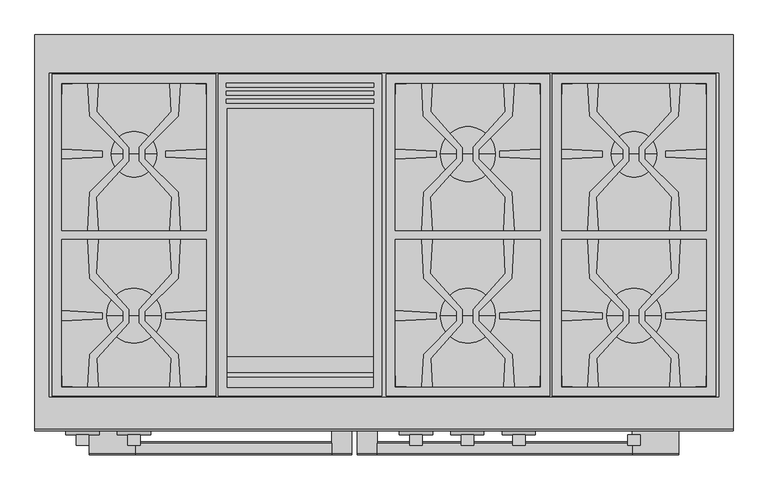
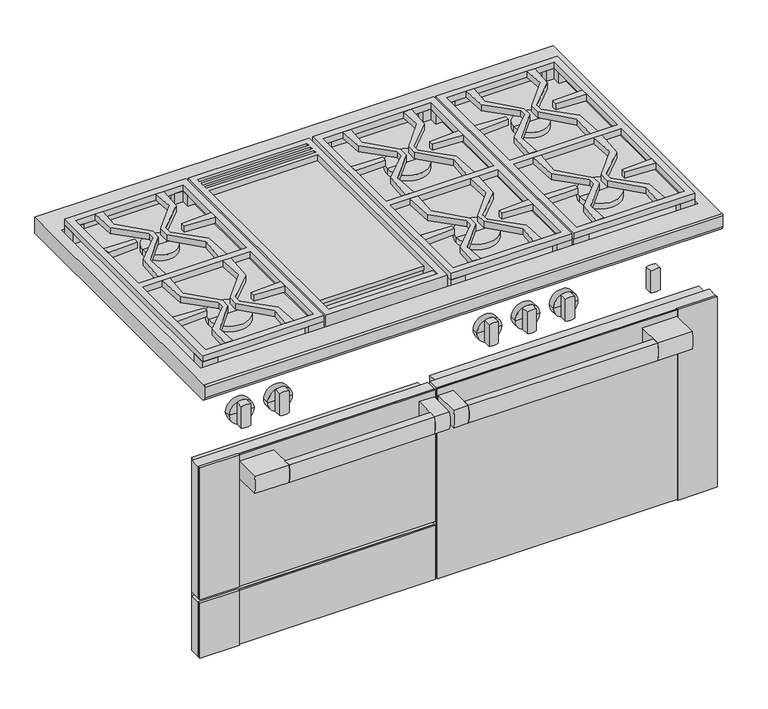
"""IFC4 building model written with IfcOpenShell, lengths in millimetres: proxy geometry, 11791750_USA_HR1956-3LP_EDST-CLS : 25195682_USA_11791750_HR1956-3LP_EDST-CLS."""

from ifc_helpers import new_model, si_unit, point, frame, frame_2d, origin, place, context, project, spatial, polyline, circle_curve, trimmed, segment, composite_curve, outline, extrude, faceted_brep, source, transform, mapped, element, save
from ifc_brep_helpers import plane_surface, cylinder_surface, advanced_brep


def specialty_equipment_7697040e(model_context):
    return source(origin(), model_context, "Body", "SolidModel", [
        extrude(outline(composite_curve([segment(trimmed(circle_curve(frame_2d((-655.4583333, 645.5)), 78.5416667), [point((-731.0, 624.0))], [point((-731.0, 667.0))], False, "CARTESIAN"), True, "CONTINUOUS"), segment(polyline([(-731.0, 667.0), (-714.0, 667.0)]), True, "CONTINUOUS"), segment(trimmed(circle_curve(frame_2d((-789.5416667, 645.5)), 78.5416667), [point((-714.0, 667.0))], [point((-714.0, 624.0))], False, "CARTESIAN"), True, "CONTINUOUS"), segment(polyline([(-714.0, 624.0), (-731.0, 624.0)]), True, "CONTINUOUS")], self_intersect=False)), frame((-11.5, 0.0, 0.0), z_axis=(1.0, 0.0, 0.0), x_axis=(0.0, 1.0, 0.0)), (0.0, 0.0, 1.0), 445.0),
        extrude(outline(composite_curve([segment(trimmed(circle_curve(frame_2d((-655.4583333, 645.5)), 78.5416667), [point((-731.0, 624.0))], [point((-731.0, 667.0))], False, "CARTESIAN"), True, "CONTINUOUS"), segment(polyline([(-731.0, 667.0), (-714.0, 667.0)]), True, "CONTINUOUS"), segment(trimmed(circle_curve(frame_2d((-789.5416667, 645.5)), 78.5416667), [point((-714.0, 667.0))], [point((-714.0, 624.0))], False, "CARTESIAN"), True, "CONTINUOUS"), segment(polyline([(-714.0, 624.0), (-731.0, 624.0)]), True, "CONTINUOUS")], self_intersect=False)), frame((-433.5, 0.0, 0.0), z_axis=(1.0, 0.0, 0.0), x_axis=(0.0, 1.0, 0.0)), (0.0, 0.0, 1.0), 342.0),
        extrude(outline(composite_curve([segment(polyline([(-731.0, 667.0), (-668.7, 667.0), (-668.7, 624.0), (-731.0, 624.0)]), True, "CONTINUOUS"), segment(trimmed(circle_curve(frame_2d((-655.4583333, 645.5)), 78.5416667), [point((-731.0, 624.0))], [point((-731.0, 667.0))], False, "CARTESIAN"), True, "CONTINUOUS")], self_intersect=False)), frame((-46.5, 0.0, 0.0), z_axis=(1.0, 0.0, 0.0), x_axis=(0.0, 1.0, 0.0)), (0.0, 0.0, 1.0), 35.0),
        extrude(outline(composite_curve([segment(polyline([(-731.0, 667.0), (-668.7, 667.0), (-668.7, 624.0), (-731.0, 624.0)]), True, "CONTINUOUS"), segment(trimmed(circle_curve(frame_2d((-655.4583333, 645.5)), 78.5416667), [point((-731.0, 624.0))], [point((-731.0, 667.0))], False, "CARTESIAN"), True, "CONTINUOUS")], self_intersect=False)), frame((-91.5, 0.0, 0.0), z_axis=(1.0, 0.0, 0.0), x_axis=(0.0, 1.0, 0.0)), (0.0, 0.0, 1.0), 35.0),
        extrude(outline(composite_curve([segment(polyline([(-731.0, 667.0), (-668.7, 667.0), (-668.7, 624.0), (-731.0, 624.0)]), True, "CONTINUOUS"), segment(trimmed(circle_curve(frame_2d((-655.4583333, 645.5)), 78.5416667), [point((-731.0, 624.0))], [point((-731.0, 667.0))], False, "CARTESIAN"), True, "CONTINUOUS")], self_intersect=False)), frame((433.5, 0.0, 0.0), z_axis=(1.0, 0.0, 0.0), x_axis=(0.0, 1.0, 0.0)), (0.0, 0.0, 1.0), 81.0),
        extrude(outline(composite_curve([segment(polyline([(-668.7, 667.0), (-668.7, 624.0), (-731.0, 624.0)]), True, "CONTINUOUS"), segment(trimmed(circle_curve(frame_2d((-655.4583333, 645.5)), 78.5416667), [point((-731.0, 624.0))], [point((-731.0, 667.0))], False, "CARTESIAN"), True, "CONTINUOUS"), segment(polyline([(-731.0, 667.0), (-668.7, 667.0)]), True, "CONTINUOUS")], self_intersect=False)), frame((-514.5, 0.0, 0.0), z_axis=(1.0, 0.0, 0.0), x_axis=(0.0, 1.0, 0.0)), (0.0, 0.0, 1.0), 81.0),
        extrude(outline(polyline([(-596.5, -617.0), (-65.5, -617.0), (-65.5, -638.0), (-596.5, -638.0), (-596.5, -617.0)])), frame((0.0, 0.0, 211.5), z_axis=(0.0, 0.0, 1.0), x_axis=(1.0, 0.0, 0.0)), (0.0, 0.0, 1.0), 134.0),
        extrude(outline(polyline([(-596.5, -617.0), (-65.5, -617.0), (-65.5, -638.0), (-596.5, -638.0), (-596.5, -617.0)])), frame((0.0, 0.0, 359.0), z_axis=(0.0, 0.0, 1.0), x_axis=(1.0, 0.0, 0.0)), (0.0, 0.0, 1.0), 315.0),
        extrude(outline(polyline([(-36.5, -617.0), (596.5, -617.0), (596.5, -638.0), (-36.5, -638.0), (-36.5, -617.0)])), frame((0.0, 0.0, 218.0), z_axis=(0.0, 0.0, 1.0), x_axis=(1.0, 0.0, 0.0)), (0.0, 0.0, 1.0), 464.0),
        extrude(outline(polyline([(-608.5, -638.0), (-53.5, -638.0), (-53.5, -664.7), (-608.5, -664.7), (-608.5, -638.0)])), frame((0.0, 0.0, 211.0), z_axis=(0.0, 0.0, 1.0), x_axis=(1.0, 0.0, 0.0)), (0.0, 0.0, 1.0), 135.0),
        extrude(outline(polyline([(-48.5, -638.0), (608.5, -638.0), (608.5, -664.7), (-48.5, -664.7), (-48.5, -638.0)])), frame((0.0, 0.0, 211.0), z_axis=(0.0, 0.0, 1.0), x_axis=(1.0, 0.0, 0.0)), (0.0, 0.0, 1.0), 472.0),
        extrude(outline(polyline([(-608.5, -638.0), (-53.5, -638.0), (-53.5, -664.7), (-608.5, -664.7), (-608.5, -638.0)])), frame((0.0, 0.0, 356.0), z_axis=(0.0, 0.0, 1.0), x_axis=(1.0, 0.0, 0.0)), (0.0, 0.0, 1.0), 327.0),
        extrude(outline(polyline([(-607.5, -664.7), (-53.5, -664.7), (-53.5, -668.7), (-607.5, -668.7), (-607.5, -664.7)])), frame((0.0, 0.0, 211.0), z_axis=(0.0, 0.0, 1.0), x_axis=(1.0, 0.0, 0.0)), (0.0, 0.0, 1.0), 135.0),
        faceted_brep([(-515.5, -664.7, 210.0), (-608.5, -664.7, 210.0), (-608.5, -664.7, 347.0), (-515.5, -664.7, 347.0), (-515.5, -664.7, 346.0), (-607.5, -664.7, 346.0), (-607.5, -664.7, 211.0), (-515.5, -664.7, 211.0), (-515.5, -670.0, 347.0), (-608.5, -670.0, 347.0), (-608.5, -670.0, 210.0), (-515.5, -670.0, 210.0), (-515.5, -668.7, 211.0), (-515.5, -668.7, 346.0), (-607.5, -668.7, 211.0), (-607.5, -668.7, 346.0)], [[[0, 1, 2, 3, 4, 5, 6, 7]], [[8, 9, 10, 11]], [[8, 11, 0, 7, 12, 13, 4, 3]], [[1, 0, 11, 10]], [[2, 1, 10, 9]], [[3, 2, 9, 8]], [[12, 14, 15, 13]], [[14, 12, 7, 6]], [[15, 14, 6, 5]], [[13, 15, 5, 4]]]),
        extrude(outline(polyline([(-607.5, -664.7), (-53.5, -664.7), (-53.5, -668.7), (-607.5, -668.7), (-607.5, -664.7)])), frame((0.0, 0.0, 356.0), z_axis=(0.0, 0.0, 1.0), x_axis=(1.0, 0.0, 0.0)), (0.0, 0.0, 1.0), 327.0),
        faceted_brep([(-515.5, -664.7, 355.0), (-608.5, -664.7, 355.0), (-608.5, -664.7, 684.0), (-515.5, -664.7, 684.0), (-515.5, -664.7, 683.0), (-607.5, -664.7, 683.0), (-607.5, -664.7, 356.0), (-515.5, -664.7, 356.0), (-515.5, -670.0, 684.0), (-608.5, -670.0, 684.0), (-608.5, -670.0, 355.0), (-515.5, -670.0, 355.0), (-515.5, -668.7, 356.0), (-515.5, -668.7, 683.0), (-607.5, -668.7, 356.0), (-607.5, -668.7, 683.0)], [[[0, 1, 2, 3, 4, 5, 6, 7]], [[8, 9, 10, 11]], [[8, 11, 0, 7, 12, 13, 4, 3]], [[1, 0, 11, 10]], [[2, 1, 10, 9]], [[3, 2, 9, 8]], [[12, 14, 15, 13]], [[14, 12, 7, 6]], [[15, 14, 6, 5]], [[13, 15, 5, 4]]]),
        extrude(outline(polyline([(-48.5, -664.7), (607.5, -664.7), (607.5, -668.7), (-48.5, -668.7), (-48.5, -664.7)])), frame((0.0, 0.0, 211.0), z_axis=(0.0, 0.0, 1.0), x_axis=(1.0, 0.0, 0.0)), (0.0, 0.0, 1.0), 472.0),
        faceted_brep([(608.5, -664.7, 684.0), (608.5, -664.7, 210.0), (515.5, -664.7, 210.0), (515.5, -664.7, 211.0), (607.5, -664.7, 211.0), (607.5, -664.7, 683.0), (515.5, -664.7, 683.0), (515.5, -664.7, 684.0), (608.5, -670.0, 684.0), (515.5, -670.0, 684.0), (515.5, -670.0, 210.0), (608.5, -670.0, 210.0), (515.5, -668.7, 683.0), (515.5, -668.7, 211.0), (607.5, -668.7, 683.0), (607.5, -668.7, 211.0)], [[[0, 1, 2, 3, 4, 5, 6, 7]], [[8, 9, 10, 11]], [[1, 0, 8, 11]], [[2, 1, 11, 10]], [[10, 9, 7, 6, 12, 13, 3, 2]], [[0, 7, 9, 8]], [[14, 15, 13, 12]], [[15, 14, 5, 4]], [[13, 15, 4, 3]], [[14, 12, 6, 5]]]),
        extrude(outline(polyline([(355.9177304, -358.0273828), (373.9174107, -358.0273828), (370.8474419, -416.9894265), (426.9590566, -479.568392), (426.9590566, -503.4471434), (371.3930533, -565.5024535), (374.0051055, -615.0212482), (356.0054252, -615.0212482), (358.9706458, -558.0710081), (417.3494553, -499.6921986), (417.3494553, -483.3657133), (359.4764383, -425.4926963), (355.9177304, -358.0273828)])), frame((0.0, 0.0, 914.0), z_axis=(0.0, 0.0, 1.0), x_axis=(1.0, 0.0, 0.0)), (0.0, 0.0, 1.0), 15.0),
        extrude(outline(polyline([(502.0666917, -416.9448139), (498.9588735, -358.0273828), (516.9534566, -358.0273828), (513.4434746, -425.4403498), (455.5712231, -483.3126013), (455.5712231, -499.6295194), (514.0438392, -558.1021355), (517.0462487, -615.0212482), (499.041471, -615.0212482), (501.6220648, -565.4581775), (445.9590702, -503.3795395), (445.9590702, -479.6049953), (502.0666917, -416.9448139)])), frame((0.0, 0.0, 914.0), z_axis=(0.0, 0.0, 1.0), x_axis=(1.0, 0.0, 0.0)), (0.0, 0.0, 1.0), 15.0),
        extrude(outline(polyline([(65.9177304, -358.0273828), (83.9174107, -358.0273828), (80.8474419, -416.9894265), (136.9590566, -479.568392), (136.9590566, -503.4471434), (81.3930533, -565.5024535), (84.0051055, -615.0212482), (66.0054252, -615.0212482), (68.9706458, -558.0710081), (127.3494553, -499.6921986), (127.3494553, -483.3657133), (69.4764383, -425.4926963), (65.9177304, -358.0273828)])), frame((0.0, 0.0, 914.0), z_axis=(0.0, 0.0, 1.0), x_axis=(1.0, 0.0, 0.0)), (0.0, 0.0, 1.0), 15.0),
        extrude(outline(polyline([(212.0666917, -416.9448139), (208.9588735, -358.0273828), (226.9534566, -358.0273828), (223.4434746, -425.4403498), (165.5712231, -483.3126013), (165.5712231, -499.6295194), (224.0438392, -558.1021355), (227.0462487, -615.0212482), (209.041471, -615.0212482), (211.6220648, -565.4581775), (155.9590702, -503.3795395), (155.9590702, -479.6049953), (212.0666917, -416.9448139)])), frame((0.0, 0.0, 914.0), z_axis=(0.0, 0.0, 1.0), x_axis=(1.0, 0.0, 0.0)), (0.0, 0.0, 1.0), 15.0),
        extrude(outline(polyline([(-358.9561608, -558.1021355), (-355.9537513, -615.0212482), (-373.958529, -615.0212482), (-371.3779352, -565.4581775), (-427.0409298, -503.3795395), (-427.0409298, -479.6049953), (-370.9333083, -416.9448139), (-374.0411265, -358.0273828), (-356.0465434, -358.0273828), (-359.5565254, -425.4403498), (-417.4287769, -483.3126013), (-417.4287769, -499.6295194), (-358.9561608, -558.1021355)])), frame((0.0, 0.0, 914.0), z_axis=(0.0, 0.0, 1.0), x_axis=(1.0, 0.0, 0.0)), (0.0, 0.0, 1.0), 15.0),
        extrude(outline(polyline([(-501.6069467, -565.5024535), (-498.9948945, -615.0212482), (-516.9945748, -615.0212482), (-514.0293542, -558.0710081), (-455.6505447, -499.6921986), (-455.6505447, -483.3657133), (-513.5235617, -425.4926963), (-517.0822696, -358.0273828), (-499.0825893, -358.0273828), (-502.1525581, -416.9894265), (-446.0409434, -479.568392), (-446.0409434, -503.4471434), (-501.6069467, -565.5024535)])), frame((0.0, 0.0, 914.0), z_axis=(0.0, 0.0, 1.0), x_axis=(1.0, 0.0, 0.0)), (0.0, 0.0, 1.0), 15.0),
        extrude(outline(polyline([(355.9614138, -85.0), (373.9614138, -85.0), (371.3661974, -134.5196799), (427.0, -196.6082182), (427.0, -220.3917818), (370.8710782, -283.0328838), (373.9614138, -342.0), (355.9614138, -342.0), (359.4971843, -274.5334805), (417.3891082, -216.6415566), (417.3891082, -200.3584434), (358.9441217, -141.9134569), (355.9614138, -85.0)])), frame((0.0, 0.0, 914.0), z_axis=(0.0, 0.0, 1.0), x_axis=(1.0, 0.0, 0.0)), (0.0, 0.0, 1.0), 15.0),
        extrude(outline(polyline([(499.0, -85.0), (517.0, -85.0), (514.0172921, -141.9134569), (455.6108918, -200.3198573), (455.6108918, -216.6801428), (513.4642295, -274.5334805), (517.0, -342.0), (499.0, -342.0), (502.0903356, -283.0328839), (446.0, -220.4348449), (446.0, -196.5651551), (501.5952165, -134.5196799), (499.0, -85.0)])), frame((0.0, 0.0, 914.0), z_axis=(0.0, 0.0, 1.0), x_axis=(1.0, 0.0, 0.0)), (0.0, 0.0, 1.0), 15.0),
        extrude(outline(polyline([(83.9614138, -85.0), (81.3661974, -134.5196799), (137.0, -196.6082182), (137.0, -220.3917818), (80.8710782, -283.0328838), (83.9614138, -342.0), (65.9614138, -342.0), (69.4971843, -274.5334805), (127.3891082, -216.6415566), (127.3891082, -200.3584434), (68.9441217, -141.9134569), (65.9614138, -85.0), (83.9614138, -85.0)])), frame((0.0, 0.0, 914.0), z_axis=(0.0, 0.0, 1.0), x_axis=(1.0, 0.0, 0.0)), (0.0, 0.0, 1.0), 15.0),
        extrude(outline(polyline([(211.5952165, -134.5196799), (209.0, -85.0), (227.0, -85.0), (224.0172921, -141.9134569), (165.6108918, -200.3198573), (165.6108918, -216.6801428), (223.4642295, -274.5334805), (227.0, -342.0), (209.0, -342.0), (212.0903356, -283.0328839), (156.0, -220.4348449), (156.0, -196.5651551), (211.5952165, -134.5196799)])), frame((0.0, 0.0, 914.0), z_axis=(0.0, 0.0, 1.0), x_axis=(1.0, 0.0, 0.0)), (0.0, 0.0, 1.0), 15.0),
        extrude(outline(polyline([(579.0, -67.0), (579.0, -633.0), (294.0, -633.0), (294.0, -67.0), (579.0, -67.0)])), frame((0.0, 0.0, 870.0), z_axis=(0.0, 0.0, 1.0), x_axis=(1.0, 0.0, 0.0)), (0.0, 0.0, 1.0), 17.0),
        extrude(outline(polyline([(-294.0, -67.0), (-294.0, -633.0), (-579.0, -633.0), (-579.0, -67.0), (-294.0, -67.0)])), frame((0.0, 0.0, 870.0), z_axis=(0.0, 0.0, 1.0), x_axis=(1.0, 0.0, 0.0)), (0.0, 0.0, 1.0), 17.0),
        extrude(outline(polyline([(289.0, -69.0), (289.0, -631.0), (4.0, -631.0), (4.0, -69.0), (289.0, -69.0)])), frame((0.0, 0.0, 870.0), z_axis=(0.0, 0.0, 1.0), x_axis=(1.0, 0.0, 0.0)), (0.0, 0.0, 1.0), 17.0),
        extrude(outline(polyline([(-563.0, -217.4810574), (-563.0, -199.5189426), (-492.0, -203.2078739), (-492.0, -213.7921261), (-563.0, -217.4810574)])), frame((0.0, 0.0, 914.0), z_axis=(0.0, 0.0, 1.0), x_axis=(1.0, 0.0, 0.0)), (0.0, 0.0, 1.0), 15.0),
        extrude(outline(polyline([(-310.0, -199.5262039), (-310.0, -217.4737961), (-381.0, -213.7790477), (-381.0, -203.2209523), (-310.0, -199.5262039)])), frame((0.0, 0.0, 914.0), z_axis=(0.0, 0.0, 1.0), x_axis=(1.0, 0.0, 0.0)), (0.0, 0.0, 1.0), 15.0),
        extrude(outline(polyline([(-563.0, -499.9810574), (-563.0, -482.0189426), (-492.0, -485.7078739), (-492.0, -496.2921261), (-563.0, -499.9810574)])), frame((0.0, 0.0, 914.0), z_axis=(0.0, 0.0, 1.0), x_axis=(1.0, 0.0, 0.0)), (0.0, 0.0, 1.0), 15.0),
        extrude(outline(polyline([(-310.0, -482.0262039), (-310.0, -499.9737961), (-381.0, -496.2790477), (-381.0, -485.7209523), (-310.0, -482.0262039)])), frame((0.0, 0.0, 914.0), z_axis=(0.0, 0.0, 1.0), x_axis=(1.0, 0.0, 0.0)), (0.0, 0.0, 1.0), 15.0),
        extrude(outline(polyline([(20.0337834, -499.9810574), (20.0337834, -482.0189426), (91.0337834, -485.7078739), (91.0337834, -496.2921261), (20.0337834, -499.9810574)])), frame((0.0, 0.0, 914.0), z_axis=(0.0, 0.0, 1.0), x_axis=(1.0, 0.0, 0.0)), (0.0, 0.0, 1.0), 15.0),
        extrude(outline(polyline([(273.0337834, -482.0262039), (273.0337834, -499.9737961), (202.0337834, -496.2790477), (202.0337834, -485.7209523), (273.0337834, -482.0262039)])), frame((0.0, 0.0, 914.0), z_axis=(0.0, 0.0, 1.0), x_axis=(1.0, 0.0, 0.0)), (0.0, 0.0, 1.0), 15.0),
        extrude(outline(polyline([(310.0, -499.9810574), (310.0, -482.0189426), (381.0, -485.7078739), (381.0, -496.2921261), (310.0, -499.9810574)])), frame((0.0, 0.0, 914.0), z_axis=(0.0, 0.0, 1.0), x_axis=(1.0, 0.0, 0.0)), (0.0, 0.0, 1.0), 15.0),
        extrude(outline(polyline([(563.0, -482.0262039), (563.0, -499.9737961), (492.0, -496.2790477), (492.0, -485.7209523), (563.0, -482.0262039)])), frame((0.0, 0.0, 914.0), z_axis=(0.0, 0.0, 1.0), x_axis=(1.0, 0.0, 0.0)), (0.0, 0.0, 1.0), 15.0),
        extrude(outline(polyline([(310.0, -217.4810574), (310.0, -199.5189426), (381.0, -203.2078739), (381.0, -213.7921261), (310.0, -217.4810574)])), frame((0.0, 0.0, 914.0), z_axis=(0.0, 0.0, 1.0), x_axis=(1.0, 0.0, 0.0)), (0.0, 0.0, 1.0), 15.0),
        extrude(outline(polyline([(563.0, -199.5262039), (563.0, -217.4737961), (492.0, -213.7790477), (492.0, -203.2209523), (563.0, -199.5262039)])), frame((0.0, 0.0, 914.0), z_axis=(0.0, 0.0, 1.0), x_axis=(1.0, 0.0, 0.0)), (0.0, 0.0, 1.0), 15.0),
        extrude(outline(polyline([(-517.0385862, -85.0), (-499.0385862, -85.0), (-501.6338026, -134.5196799), (-446.0, -196.6082182), (-446.0, -220.3917818), (-502.1289218, -283.0328838), (-499.0385862, -342.0), (-517.0385862, -342.0), (-513.5028157, -274.5334805), (-455.6108918, -216.6415566), (-455.6108918, -200.3584434), (-514.0558783, -141.9134569), (-517.0385862, -85.0)])), frame((0.0, 0.0, 914.0), z_axis=(0.0, 0.0, 1.0), x_axis=(1.0, 0.0, 0.0)), (0.0, 0.0, 1.0), 15.0),
        extrude(outline(polyline([(-356.0, -85.0), (-358.9827079, -141.9134569), (-417.3891082, -200.3198573), (-417.3891082, -216.6801428), (-359.5357705, -274.5334805), (-356.0, -342.0), (-374.0, -342.0), (-370.9096644, -283.0328839), (-427.0, -220.4348449), (-427.0, -196.5651551), (-371.4047835, -134.5196799), (-374.0, -85.0), (-356.0, -85.0)])), frame((0.0, 0.0, 914.0), z_axis=(0.0, 0.0, 1.0), x_axis=(1.0, 0.0, 0.0)), (0.0, 0.0, 1.0), 15.0),
        extrude(outline(polyline([(-294.0, -631.0), (-329.0, -631.0), (-329.0, -615.0), (-310.0, -615.0), (-310.0, -596.0), (-294.0, -596.0), (-294.0, -631.0)])), frame((0.0, 0.0, 887.0), z_axis=(0.0, 0.0, 1.0), x_axis=(1.0, 0.0, 0.0)), (0.0, 0.0, 1.0), 27.0),
        extrude(outline(polyline([(-579.0, -631.0), (-579.0, -596.0), (-563.0, -596.0), (-563.0, -615.0), (-544.0, -615.0), (-544.0, -631.0), (-579.0, -631.0)])), frame((0.0, 0.0, 887.0), z_axis=(0.0, 0.0, 1.0), x_axis=(1.0, 0.0, 0.0)), (0.0, 0.0, 1.0), 27.0),
        extrude(outline(polyline([(-294.0, -69.0), (-294.0, -104.0), (-310.0, -104.0), (-310.0, -85.0), (-329.0, -85.0), (-329.0, -69.0), (-294.0, -69.0)])), frame((0.0, 0.0, 887.0), z_axis=(0.0, 0.0, 1.0), x_axis=(1.0, 0.0, 0.0)), (0.0, 0.0, 1.0), 27.0),
        extrude(outline(polyline([(-579.0, -69.0), (-544.0, -69.0), (-544.0, -85.0), (-563.0, -85.0), (-563.0, -104.0), (-579.0, -104.0), (-579.0, -69.0)])), frame((0.0, 0.0, 887.0), z_axis=(0.0, 0.0, 1.0), x_axis=(1.0, 0.0, 0.0)), (0.0, 0.0, 1.0), 27.0),
        extrude(outline(polyline([(20.0337834, -217.4810574), (20.0337834, -199.5189426), (91.0337834, -203.2078739), (91.0337834, -213.7921261), (20.0337834, -217.4810574)])), frame((0.0, 0.0, 914.0), z_axis=(0.0, 0.0, 1.0), x_axis=(1.0, 0.0, 0.0)), (0.0, 0.0, 1.0), 15.0),
        extrude(outline(polyline([(273.0337834, -199.5262039), (273.0337834, -217.4737961), (202.0337834, -213.7790477), (202.0337834, -203.2209523), (273.0337834, -199.5262039)])), frame((0.0, 0.0, 914.0), z_axis=(0.0, 0.0, 1.0), x_axis=(1.0, 0.0, 0.0)), (0.0, 0.0, 1.0), 15.0),
        advanced_brep(
        [(396.5, -208.5, 887.0), (476.5, -208.5, 887.0), (476.5, -208.5, 901.0), (396.5, -208.5, 901.0), (436.5, -208.5, 887.0), (436.5, -208.5, 901.0)],
        [
            (0, 1, circle_curve(frame((436.5, -208.5, 887.0), z_axis=(0.0, 0.0, 1.0), x_axis=(1.0, 0.0, 0.0)), 40.0)),
            (1, 2),
            (2, 3, circle_curve(frame((436.5, -208.5, 901.0), z_axis=(0.0, 0.0, -1.0), x_axis=(1.0, 0.0, 0.0)), 40.0)),
            (3, 0),
            (1, 0, circle_curve(frame((436.5, -208.5, 887.0), z_axis=(0.0, 0.0, 1.0), x_axis=(1.0, 0.0, 0.0)), 40.0)),
            (3, 2, circle_curve(frame((436.5, -208.5, 901.0), z_axis=(0.0, 0.0, -1.0), x_axis=(1.0, 0.0, 0.0)), 40.0)),
            (4, 1),
            (0, 4),
            (2, 5),
            (5, 3),
        ],
        [
            cylinder_surface(frame((436.5, -208.5, 2424.4), z_axis=(0.0, 0.0, -1.0), x_axis=(1.0, 0.0, 0.0)), 40.0),
            plane_surface(frame((436.5, -208.5, 887.0), z_axis=(0.0, 0.0, -1.0), x_axis=(1.0, 0.0, 0.0))),
            plane_surface(frame((436.5, -208.5, 901.0), z_axis=(0.0, 0.0, 1.0), x_axis=(1.0, 0.0, 0.0))),
        ],
        [
            (0, [[1, 2, 3, 4]]),
            (0, [[5, -4, 6, -2]]),
            (1, [[7, -1, 8]]),
            (1, [[-8, -5, -7]]),
            (2, [[-3, 9, 10]]),
            (2, [[-6, -10, -9]]),
        ],
    ),
        extrude(outline(polyline([(289.0, -69.0), (289.0, -631.0), (4.0, -631.0), (4.0, -69.0), (289.0, -69.0)]), holes=[polyline([(273.0337834, -85.0), (20.0337834, -85.0), (20.0337834, -342.0), (273.0337834, -342.0), (273.0337834, -85.0)]), polyline([(20.0337834, -358.0), (20.0337834, -615.0), (273.0337834, -615.0), (273.0337834, -358.0), (20.0337834, -358.0)])]), frame((0.0, 0.0, 914.0), z_axis=(0.0, 0.0, 1.0), x_axis=(1.0, 0.0, 0.0)), (0.0, 0.0, 1.0), 15.0),
        extrude(outline(polyline([(579.0, -69.0), (579.0, -631.0), (294.0, -631.0), (294.0, -69.0), (579.0, -69.0)]), holes=[polyline([(563.0, -85.0), (310.0, -85.0), (310.0, -342.0), (563.0, -342.0), (563.0, -85.0)]), polyline([(310.0, -358.0), (310.0, -615.0), (563.0, -615.0), (563.0, -358.0), (310.0, -358.0)])]), frame((0.0, 0.0, 914.0), z_axis=(0.0, 0.0, 1.0), x_axis=(1.0, 0.0, 0.0)), (0.0, 0.0, 1.0), 15.0),
        extrude(outline(polyline([(-294.0, -69.0), (-294.0, -631.0), (-579.0, -631.0), (-579.0, -69.0), (-294.0, -69.0)]), holes=[polyline([(-310.0, -85.0), (-563.0, -85.0), (-563.0, -342.0), (-310.0, -342.0), (-310.0, -85.0)]), polyline([(-563.0, -358.0), (-563.0, -615.0), (-310.0, -615.0), (-310.0, -358.0), (-563.0, -358.0)])]), frame((0.0, 0.0, 914.0), z_axis=(0.0, 0.0, 1.0), x_axis=(1.0, 0.0, 0.0)), (0.0, 0.0, 1.0), 15.0),
        advanced_brep(
        [(388.5, -491.0, 887.0), (484.5, -491.0, 887.0), (484.5, -491.0, 901.0), (388.5, -491.0, 901.0), (436.5, -491.0, 887.0), (436.5, -491.0, 901.0)],
        [
            (0, 1, circle_curve(frame((436.5, -491.0, 887.0), z_axis=(0.0, 0.0, 1.0), x_axis=(1.0, 0.0, 0.0)), 48.0)),
            (1, 2),
            (2, 3, circle_curve(frame((436.5, -491.0, 901.0), z_axis=(0.0, 0.0, -1.0), x_axis=(1.0, 0.0, 0.0)), 48.0)),
            (3, 0),
            (1, 0, circle_curve(frame((436.5, -491.0, 887.0), z_axis=(0.0, 0.0, 1.0), x_axis=(1.0, 0.0, 0.0)), 48.0)),
            (3, 2, circle_curve(frame((436.5, -491.0, 901.0), z_axis=(0.0, 0.0, -1.0), x_axis=(1.0, 0.0, 0.0)), 48.0)),
            (4, 1),
            (0, 4),
            (2, 5),
            (5, 3),
        ],
        [
            cylinder_surface(frame((436.5, -491.0, 2424.4), z_axis=(0.0, 0.0, -1.0), x_axis=(1.0, 0.0, 0.0)), 48.0),
            plane_surface(frame((436.5, -491.0, 887.0), z_axis=(0.0, 0.0, -1.0), x_axis=(1.0, 0.0, 0.0))),
            plane_surface(frame((436.5, -491.0, 901.0), z_axis=(0.0, 0.0, 1.0), x_axis=(1.0, 0.0, 0.0))),
        ],
        [
            (0, [[1, 2, 3, 4]]),
            (0, [[5, -4, 6, -2]]),
            (1, [[7, -1, 8]]),
            (1, [[-8, -5, -7]]),
            (2, [[-3, 9, 10]]),
            (2, [[-6, -10, -9]]),
        ],
    ),
        advanced_brep(
        [(-484.5, -491.0, 887.0), (-388.5, -491.0, 887.0), (-388.5, -491.0, 901.0), (-484.5, -491.0, 901.0), (-436.5, -491.0, 887.0), (-436.5, -491.0, 901.0)],
        [
            (0, 1, circle_curve(frame((-436.5, -491.0, 887.0), z_axis=(0.0, 0.0, 1.0), x_axis=(1.0, 0.0, 0.0)), 48.0)),
            (1, 2),
            (2, 3, circle_curve(frame((-436.5, -491.0, 901.0), z_axis=(0.0, 0.0, -1.0), x_axis=(1.0, 0.0, 0.0)), 48.0)),
            (3, 0),
            (1, 0, circle_curve(frame((-436.5, -491.0, 887.0), z_axis=(0.0, 0.0, 1.0), x_axis=(1.0, 0.0, 0.0)), 48.0)),
            (3, 2, circle_curve(frame((-436.5, -491.0, 901.0), z_axis=(0.0, 0.0, -1.0), x_axis=(1.0, 0.0, 0.0)), 48.0)),
            (4, 1),
            (0, 4),
            (2, 5),
            (5, 3),
        ],
        [
            cylinder_surface(frame((-436.5, -491.0, 2424.4), z_axis=(0.0, 0.0, -1.0), x_axis=(1.0, 0.0, 0.0)), 48.0),
            plane_surface(frame((-436.5, -491.0, 887.0), z_axis=(0.0, 0.0, -1.0), x_axis=(1.0, 0.0, 0.0))),
            plane_surface(frame((-436.5, -491.0, 901.0), z_axis=(0.0, 0.0, 1.0), x_axis=(1.0, 0.0, 0.0))),
        ],
        [
            (0, [[1, 2, 3, 4]]),
            (0, [[5, -4, 6, -2]]),
            (1, [[7, -1, 8]]),
            (1, [[-8, -5, -7]]),
            (2, [[-3, 9, 10]]),
            (2, [[-6, -10, -9]]),
        ],
    ),
        advanced_brep(
        [(-476.5, -208.5, 887.0), (-396.5, -208.5, 887.0), (-396.5, -208.5, 901.0), (-476.5, -208.5, 901.0), (-436.5, -208.5, 887.0), (-436.5, -208.5, 901.0)],
        [
            (0, 1, circle_curve(frame((-436.5, -208.5, 887.0), z_axis=(0.0, 0.0, 1.0), x_axis=(1.0, 0.0, 0.0)), 40.0)),
            (1, 2),
            (2, 3, circle_curve(frame((-436.5, -208.5, 901.0), z_axis=(0.0, 0.0, -1.0), x_axis=(1.0, 0.0, 0.0)), 40.0)),
            (3, 0),
            (1, 0, circle_curve(frame((-436.5, -208.5, 887.0), z_axis=(0.0, 0.0, 1.0), x_axis=(1.0, 0.0, 0.0)), 40.0)),
            (3, 2, circle_curve(frame((-436.5, -208.5, 901.0), z_axis=(0.0, 0.0, -1.0), x_axis=(1.0, 0.0, 0.0)), 40.0)),
            (4, 1),
            (0, 4),
            (2, 5),
            (5, 3),
        ],
        [
            cylinder_surface(frame((-436.5, -208.5, 2424.4), z_axis=(0.0, 0.0, -1.0), x_axis=(1.0, 0.0, 0.0)), 40.0),
            plane_surface(frame((-436.5, -208.5, 887.0), z_axis=(0.0, 0.0, -1.0), x_axis=(1.0, 0.0, 0.0))),
            plane_surface(frame((-436.5, -208.5, 901.0), z_axis=(0.0, 0.0, 1.0), x_axis=(1.0, 0.0, 0.0))),
        ],
        [
            (0, [[1, 2, 3, 4]]),
            (0, [[5, -4, 6, -2]]),
            (1, [[7, -1, 8]]),
            (1, [[-8, -5, -7]]),
            (2, [[-3, 9, 10]]),
            (2, [[-6, -10, -9]]),
        ],
    ),
        extrude(outline(polyline([(579.0, -631.0), (544.0, -631.0), (544.0, -615.0), (563.0, -615.0), (563.0, -596.0), (579.0, -596.0), (579.0, -631.0)])), frame((0.0, 0.0, 887.0), z_axis=(0.0, 0.0, 1.0), x_axis=(1.0, 0.0, 0.0)), (0.0, 0.0, 1.0), 27.0),
        extrude(outline(polyline([(294.0, -631.0), (294.0, -596.0), (310.0125078, -596.0), (310.0125078, -615.0), (329.0, -615.0), (329.0, -631.0), (294.0, -631.0)])), frame((0.0, 0.0, 887.0), z_axis=(0.0, 0.0, 1.0), x_axis=(1.0, 0.0, 0.0)), (0.0, 0.0, 1.0), 27.0),
        extrude(outline(polyline([(579.0, -69.0), (579.0, -104.0), (562.9874922, -104.0), (562.9874922, -85.0), (544.0, -85.0), (544.0, -69.0), (579.0, -69.0)])), frame((0.0, 0.0, 887.0), z_axis=(0.0, 0.0, 1.0), x_axis=(1.0, 0.0, 0.0)), (0.0, 0.0, 1.0), 27.0),
        extrude(outline(polyline([(294.0, -69.0), (329.0, -69.0), (329.0, -85.0), (310.0125078, -85.0), (310.0125078, -104.0), (294.0, -104.0), (294.0, -69.0)])), frame((0.0, 0.0, 887.0), z_axis=(0.0, 0.0, 1.0), x_axis=(1.0, 0.0, 0.0)), (0.0, 0.0, 1.0), 27.0),
        extrude(outline(polyline([(289.0, -631.0), (254.0, -631.0), (254.0, -615.0), (273.0337834, -615.0), (273.0337834, -596.0), (289.0, -596.0), (289.0, -631.0)])), frame((0.0, 0.0, 887.0), z_axis=(0.0, 0.0, 1.0), x_axis=(1.0, 0.0, 0.0)), (0.0, 0.0, 1.0), 27.0),
        extrude(outline(polyline([(4.0, -631.0), (4.0, -596.0), (20.0337834, -596.0), (20.0337834, -615.0), (39.0, -615.0), (39.0, -631.0), (4.0, -631.0)])), frame((0.0, 0.0, 887.0), z_axis=(0.0, 0.0, 1.0), x_axis=(1.0, 0.0, 0.0)), (0.0, 0.0, 1.0), 27.0),
        extrude(outline(polyline([(289.0, -69.0), (289.0, -104.0), (273.0337834, -104.0), (273.0337834, -85.0), (254.0, -85.0), (254.0, -69.0), (289.0, -69.0)])), frame((0.0, 0.0, 887.0), z_axis=(0.0, 0.0, 1.0), x_axis=(1.0, 0.0, 0.0)), (0.0, 0.0, 1.0), 27.0),
        extrude(outline(polyline([(4.0, -69.0), (39.0, -69.0), (39.0, -85.0), (20.0337834, -85.0), (20.0337834, -104.0), (4.0, -104.0), (4.0, -69.0)])), frame((0.0, 0.0, 887.0), z_axis=(0.0, 0.0, 1.0), x_axis=(1.0, 0.0, 0.0)), (0.0, 0.0, 1.0), 27.0),
        advanced_brep(
        [(98.5, -208.5, 887.0), (194.5, -208.5, 887.0), (194.5, -208.5, 901.0), (98.5, -208.5, 901.0), (146.5, -208.5, 887.0), (146.5, -208.5, 901.0)],
        [
            (0, 1, circle_curve(frame((146.5, -208.5, 887.0), z_axis=(0.0, 0.0, 1.0), x_axis=(1.0, 0.0, 0.0)), 48.0)),
            (1, 2),
            (2, 3, circle_curve(frame((146.5, -208.5, 901.0), z_axis=(0.0, 0.0, -1.0), x_axis=(1.0, 0.0, 0.0)), 48.0)),
            (3, 0),
            (1, 0, circle_curve(frame((146.5, -208.5, 887.0), z_axis=(0.0, 0.0, 1.0), x_axis=(1.0, 0.0, 0.0)), 48.0)),
            (3, 2, circle_curve(frame((146.5, -208.5, 901.0), z_axis=(0.0, 0.0, -1.0), x_axis=(1.0, 0.0, 0.0)), 48.0)),
            (4, 1),
            (0, 4),
            (2, 5),
            (5, 3),
        ],
        [
            cylinder_surface(frame((146.5, -208.5, 2338.4), z_axis=(0.0, 0.0, -1.0), x_axis=(1.0, 0.0, 0.0)), 48.0),
            plane_surface(frame((146.5, -208.5, 887.0), z_axis=(0.0, 0.0, -1.0), x_axis=(1.0, 0.0, 0.0))),
            plane_surface(frame((146.5, -208.5, 901.0), z_axis=(0.0, 0.0, 1.0), x_axis=(1.0, 0.0, 0.0))),
        ],
        [
            (0, [[1, 2, 3, 4]]),
            (0, [[5, -4, 6, -2]]),
            (1, [[7, -1, 8]]),
            (1, [[-8, -5, -7]]),
            (2, [[-3, 9, 10]]),
            (2, [[-6, -10, -9]]),
        ],
    ),
        advanced_brep(
        [(98.5, -491.0, 887.0), (194.5, -491.0, 887.0), (194.5, -491.0, 901.0), (98.5, -491.0, 901.0), (146.5, -491.0, 887.0), (146.5, -491.0, 901.0)],
        [
            (0, 1, circle_curve(frame((146.5, -491.0, 887.0), z_axis=(0.0, 0.0, 1.0), x_axis=(1.0, 0.0, 0.0)), 48.0)),
            (1, 2),
            (2, 3, circle_curve(frame((146.5, -491.0, 901.0), z_axis=(0.0, 0.0, -1.0), x_axis=(1.0, 0.0, 0.0)), 48.0)),
            (3, 0),
            (1, 0, circle_curve(frame((146.5, -491.0, 887.0), z_axis=(0.0, 0.0, 1.0), x_axis=(1.0, 0.0, 0.0)), 48.0)),
            (3, 2, circle_curve(frame((146.5, -491.0, 901.0), z_axis=(0.0, 0.0, -1.0), x_axis=(1.0, 0.0, 0.0)), 48.0)),
            (4, 1),
            (0, 4),
            (2, 5),
            (5, 3),
        ],
        [
            cylinder_surface(frame((146.5, -491.0, 2424.4), z_axis=(0.0, 0.0, -1.0), x_axis=(1.0, 0.0, 0.0)), 48.0),
            plane_surface(frame((146.5, -491.0, 887.0), z_axis=(0.0, 0.0, -1.0), x_axis=(1.0, 0.0, 0.0))),
            plane_surface(frame((146.5, -491.0, 901.0), z_axis=(0.0, 0.0, 1.0), x_axis=(1.0, 0.0, 0.0))),
        ],
        [
            (0, [[1, 2, 3, 4]]),
            (0, [[5, -4, 6, -2]]),
            (1, [[7, -1, 8]]),
            (1, [[-8, -5, -7]]),
            (2, [[-3, 9, 10]]),
            (2, [[-6, -10, -9]]),
        ],
    ),
        advanced_brep(
        [(609.5, 0.0, 902.0), (609.5, -688.3499547, 902.0), (609.5, -692.0, 898.3499547), (609.5, -692.0, 872.0), (609.5, -682.0, 862.0), (609.5, 0.0, 862.0), (-609.5, 0.0, 902.0), (-609.5, 0.0, 862.0), (-609.5, -682.0, 862.0), (-609.5, -692.0, 872.0), (-609.5, -692.0, 898.3499547), (-609.5, -688.3499547, 902.0), (-584.5, -67.0, 902.0), (584.5, -67.0, 902.0), (584.5, -633.0, 902.0), (-584.5, -633.0, 902.0), (584.5, -67.0, 870.0), (-584.5, -67.0, 870.0), (-584.5, -633.0, 870.0), (584.5, -633.0, 870.0)],
        [
            (0, 1),
            (1, 2, circle_curve(frame((609.5, -688.0, 898.0), z_axis=(1.0, 0.0, 0.0), x_axis=(0.0, 0.0, 1.0)), 4.0152794)),
            (2, 3),
            (3, 4, circle_curve(frame((609.5, -682.0, 872.0), z_axis=(1.0, 0.0, 0.0), x_axis=(0.0, 0.0, 1.0)), 10.0)),
            (4, 5),
            (5, 0),
            (6, 7),
            (7, 8),
            (8, 9, circle_curve(frame((-609.5, -682.0, 872.0), z_axis=(-1.0, 0.0, 0.0), x_axis=(0.0, 0.0, 1.0)), 10.0)),
            (9, 10),
            (10, 11, circle_curve(frame((-609.5, -688.0, 898.0), z_axis=(-1.0, 0.0, 0.0), x_axis=(0.0, 0.0, 1.0)), 4.0152794)),
            (11, 6),
            (0, 6),
            (11, 1),
            (12, 13),
            (13, 14),
            (14, 15),
            (15, 12),
            (10, 2),
            (9, 3),
            (8, 4),
            (7, 5),
            (16, 17),
            (17, 18),
            (18, 19),
            (19, 16),
            (16, 13),
            (12, 17),
            (15, 18),
            (14, 19),
        ],
        [
            plane_surface(frame((609.5, -688.3499547, 902.0), z_axis=(1.0, 0.0, 0.0), x_axis=(0.0, -1.0, 0.0))),
            plane_surface(frame((-609.5, -688.3499547, 902.0), z_axis=(-1.0, 0.0, 0.0), x_axis=(0.0, 1.0, 0.0))),
            plane_surface(frame((609.5, 0.0, 902.0), z_axis=(0.0, 0.0, 1.0), x_axis=(-1.0, 0.0, 0.0))),
            cylinder_surface(frame((-609.5, -688.0, 898.0), z_axis=(1.0, 0.0, 0.0), x_axis=(0.0, 0.0, 1.0)), 4.0152794),
            plane_surface(frame((609.5, -692.0, 898.3499547), z_axis=(0.0, -1.0, 0.0), x_axis=(-1.0, 0.0, 0.0))),
            cylinder_surface(frame((-609.5, -682.0, 872.0), z_axis=(1.0, 0.0, 0.0), x_axis=(0.0, 0.0, 1.0)), 10.0),
            plane_surface(frame((609.5, -682.0, 862.0), z_axis=(0.0, 0.0, -1.0), x_axis=(-1.0, 0.0, 0.0))),
            plane_surface(frame((609.5, 0.0, 862.0), z_axis=(0.0, 1.0, 0.0), x_axis=(-1.0, 0.0, 0.0))),
            plane_surface(frame((-584.5, -67.0, 870.0), z_axis=(0.0, 0.0, 1.0), x_axis=(1.0, 0.0, 0.0))),
            plane_surface(frame((584.5, -67.0, 902.0), z_axis=(0.0, -1.0, 0.0), x_axis=(0.0, 0.0, -1.0))),
            plane_surface(frame((-584.5, -67.0, 902.0), z_axis=(1.0, 0.0, 0.0), x_axis=(0.0, 0.0, -1.0))),
            plane_surface(frame((-584.5, -633.0, 902.0), z_axis=(0.0, 1.0, 0.0), x_axis=(0.0, 0.0, -1.0))),
            plane_surface(frame((584.5, -633.0, 902.0), z_axis=(-1.0, 0.0, 0.0), x_axis=(0.0, 0.0, -1.0))),
        ],
        [
            (0, [[1, 2, 3, 4, 5, 6]]),
            (1, [[7, 8, 9, 10, 11, 12]]),
            (2, [[-1, 13, -12, 14], [15, 16, 17, 18]]),
            (3, [[-2, -14, -11, 19]]),
            (4, [[-3, -19, -10, 20]]),
            (5, [[-4, -20, -9, 21]]),
            (6, [[-5, -21, -8, 22]]),
            (7, [[-6, -22, -7, -13]]),
            (8, [[23, 24, 25, 26]]),
            (9, [[-23, 27, -15, 28]]),
            (10, [[-24, -28, -18, 29]]),
            (11, [[-25, -29, -17, 30]]),
            (12, [[-26, -30, -16, -27]]),
        ],
    ),
        extrude(outline(polyline([(-599.0, 926.0), (-599.0, 916.0), (-602.0, 916.0), (-590.3423085, 891.0), (-558.0, 891.0), (-558.0, 904.0), (-562.0, 904.0), (-562.0, 914.0), (-129.0, 914.0), (-129.0, 904.0), (-557.0, 904.0), (-557.0, 890.0), (-590.9793788, 890.0), (-603.1033779, 916.0), (-616.0, 916.0), (-616.0, 926.0), (-599.0, 926.0)])), frame((-274.0, 0.0, 0.0), z_axis=(1.0, 0.0, 0.0), x_axis=(0.0, 1.0, 0.0)), (0.0, 0.0, 1.0), 255.0),
        extrude(outline(polyline([(-4.0, -69.0), (-4.0, -631.0), (-289.0, -631.0), (-289.0, -69.0), (-4.0, -69.0)]), holes=[polyline([(-19.0, -129.0), (-274.0, -129.0), (-274.0, -616.0), (-19.0, -616.0), (-19.0, -129.0)]), polyline([(-275.0, -84.0), (-275.0, -91.0), (-18.0, -91.0), (-18.0, -84.0), (-275.0, -84.0)]), polyline([(-275.0, -98.0), (-275.0, -105.0), (-18.0, -105.0), (-18.0, -98.0), (-275.0, -98.0)]), polyline([(-275.0, -112.0), (-275.0, -119.0), (-18.0, -119.0), (-18.0, -112.0), (-275.0, -112.0)])]), frame((0.0, 0.0, 891.0), z_axis=(0.0, 0.0, 1.0), x_axis=(1.0, 0.0, 0.0)), (0.0, 0.0, 1.0), 38.0),
        extrude(outline(composite_curve([segment(polyline([(839.8328157, 134.5), (786.1671843, 134.5)]), True, "CONTINUOUS"), segment(trimmed(circle_curve(frame_2d((813.0, 145.5)), 29.0), [point((786.1671843, 134.5))], [point((786.1671843, 156.5))], False, "CARTESIAN"), True, "CONTINUOUS"), segment(polyline([(786.1671843, 156.5), (839.8328157, 156.5)]), True, "CONTINUOUS"), segment(trimmed(circle_curve(frame_2d((813.0, 145.5)), 29.0), [point((839.8328157, 156.5))], [point((839.8328157, 134.5))], False, "CARTESIAN"), True, "CONTINUOUS")], self_intersect=False)), frame((0.0, -717.0, 0.0), z_axis=(0.0, 1.0, 0.0), x_axis=(0.0, 0.0, 1.0)), (0.0, 0.0, 1.0), 18.0),
        extrude(outline(composite_curve([segment(polyline([(839.8328157, 45.0), (786.1671843, 45.0)]), True, "CONTINUOUS"), segment(trimmed(circle_curve(frame_2d((813.0, 56.0)), 29.0), [point((786.1671843, 45.0))], [point((786.1671843, 67.0))], False, "CARTESIAN"), True, "CONTINUOUS"), segment(polyline([(786.1671843, 67.0), (839.8328157, 67.0)]), True, "CONTINUOUS"), segment(trimmed(circle_curve(frame_2d((813.0, 56.0)), 29.0), [point((839.8328157, 67.0))], [point((839.8328157, 45.0))], False, "CARTESIAN"), True, "CONTINUOUS")], self_intersect=False)), frame((0.0, -717.0, 0.0), z_axis=(0.0, 1.0, 0.0), x_axis=(0.0, 0.0, 1.0)), (0.0, 0.0, 1.0), 18.0),
        advanced_brep(
        [(56.0, -683.0, 813.0), (85.0, -683.0, 813.0), (27.0, -683.0, 813.0), (27.0, -699.0, 813.0), (85.0, -699.0, 813.0), (56.0, -699.0, 813.0)],
        [
            (0, 1),
            (1, 2, circle_curve(frame((56.0, -683.0, 813.0), z_axis=(0.0, 1.0, 0.0), x_axis=(1.0, 0.0, 0.0)), 29.0)),
            (2, 0),
            (2, 1, circle_curve(frame((56.0, -683.0, 813.0), z_axis=(0.0, 1.0, 0.0), x_axis=(1.0, 0.0, 0.0)), 29.0)),
            (3, 4, circle_curve(frame((56.0, -699.0, 813.0), z_axis=(0.0, -1.0, 0.0), x_axis=(1.0, 0.0, 0.0)), 29.0)),
            (4, 5),
            (5, 3),
            (4, 3, circle_curve(frame((56.0, -699.0, 813.0), z_axis=(0.0, -1.0, 0.0), x_axis=(1.0, 0.0, 0.0)), 29.0)),
            (1, 4),
            (3, 2),
        ],
        [
            plane_surface(frame((56.0, -683.0, 813.0), z_axis=(0.0, 1.0, 0.0), x_axis=(1.0, 0.0, 0.0))),
            plane_surface(frame((56.0, -699.0, 813.0), z_axis=(0.0, -1.0, 0.0), x_axis=(1.0, 0.0, 0.0))),
            cylinder_surface(frame((56.0, 751.3738435, 813.0), z_axis=(0.0, 1.0, 0.0), x_axis=(1.0, 0.0, 0.0)), 29.0),
        ],
        [
            (0, [[1, 2, 3]]),
            (0, [[-3, 4, -1]]),
            (1, [[5, 6, 7]]),
            (1, [[8, -7, -6]]),
            (2, [[-2, 9, -5, 10]]),
            (2, [[-4, -10, -8, -9]]),
        ],
    ),
        advanced_brep(
        [(145.5, -683.0, 813.0), (174.5, -683.0, 813.0), (116.5, -683.0, 813.0), (116.5, -699.0, 813.0), (174.5, -699.0, 813.0), (145.5, -699.0, 813.0)],
        [
            (0, 1),
            (1, 2, circle_curve(frame((145.5, -683.0, 813.0), z_axis=(0.0, 1.0, 0.0), x_axis=(1.0, 0.0, 0.0)), 29.0)),
            (2, 0),
            (2, 1, circle_curve(frame((145.5, -683.0, 813.0), z_axis=(0.0, 1.0, 0.0), x_axis=(1.0, 0.0, 0.0)), 29.0)),
            (3, 4, circle_curve(frame((145.5, -699.0, 813.0), z_axis=(0.0, -1.0, 0.0), x_axis=(1.0, 0.0, 0.0)), 29.0)),
            (4, 5),
            (5, 3),
            (4, 3, circle_curve(frame((145.5, -699.0, 813.0), z_axis=(0.0, -1.0, 0.0), x_axis=(1.0, 0.0, 0.0)), 29.0)),
            (1, 4),
            (3, 2),
        ],
        [
            plane_surface(frame((145.5, -683.0, 813.0), z_axis=(0.0, 1.0, 0.0), x_axis=(1.0, 0.0, 0.0))),
            plane_surface(frame((145.5, -699.0, 813.0), z_axis=(0.0, -1.0, 0.0), x_axis=(1.0, 0.0, 0.0))),
            cylinder_surface(frame((145.5, 751.3738435, 813.0), z_axis=(0.0, 1.0, 0.0), x_axis=(1.0, 0.0, 0.0)), 29.0),
        ],
        [
            (0, [[1, 2, 3]]),
            (0, [[-3, 4, -1]]),
            (1, [[5, 6, 7]]),
            (1, [[8, -7, -6]]),
            (2, [[-2, 9, -5, 10]]),
            (2, [[-4, -10, -8, -9]]),
        ],
    ),
        extrude(outline(composite_curve([segment(polyline([(839.8328157, -537.5), (786.1671843, -537.5)]), True, "CONTINUOUS"), segment(trimmed(circle_curve(frame_2d((813.0, -526.5)), 29.0), [point((786.1671843, -537.5))], [point((786.1671843, -515.5))], False, "CARTESIAN"), True, "CONTINUOUS"), segment(polyline([(786.1671843, -515.5), (839.8328157, -515.5)]), True, "CONTINUOUS"), segment(trimmed(circle_curve(frame_2d((813.0, -526.5)), 29.0), [point((839.8328157, -515.5))], [point((839.8328157, -537.5))], False, "CARTESIAN"), True, "CONTINUOUS")], self_intersect=False)), frame((0.0, -717.0, 0.0), z_axis=(0.0, 1.0, 0.0), x_axis=(0.0, 0.0, 1.0)), (0.0, 0.0, 1.0), 18.0),
        extrude(outline(composite_curve([segment(polyline([(839.8328157, -447.5), (786.1671843, -447.5)]), True, "CONTINUOUS"), segment(trimmed(circle_curve(frame_2d((813.0, -436.5)), 29.0), [point((786.1671843, -447.5))], [point((786.1671843, -425.5))], False, "CARTESIAN"), True, "CONTINUOUS"), segment(polyline([(786.1671843, -425.5), (839.8328157, -425.5)]), True, "CONTINUOUS"), segment(trimmed(circle_curve(frame_2d((813.0, -436.5)), 29.0), [point((839.8328157, -425.5))], [point((839.8328157, -447.5))], False, "CARTESIAN"), True, "CONTINUOUS")], self_intersect=False)), frame((0.0, -717.0, 0.0), z_axis=(0.0, 1.0, 0.0), x_axis=(0.0, 0.0, 1.0)), (0.0, 0.0, 1.0), 18.0),
        extrude(outline(composite_curve([segment(polyline([(839.8328157, 224.5), (786.1671843, 224.5)]), True, "CONTINUOUS"), segment(trimmed(circle_curve(frame_2d((813.0, 235.5)), 29.0), [point((786.1671843, 224.5))], [point((786.1671843, 246.5))], False, "CARTESIAN"), True, "CONTINUOUS"), segment(polyline([(786.1671843, 246.5), (839.8328157, 246.5)]), True, "CONTINUOUS"), segment(trimmed(circle_curve(frame_2d((813.0, 235.5)), 29.0), [point((839.8328157, 246.5))], [point((839.8328157, 224.5))], False, "CARTESIAN"), True, "CONTINUOUS")], self_intersect=False)), frame((0.0, -717.0, 0.0), z_axis=(0.0, 1.0, 0.0), x_axis=(0.0, 0.0, 1.0)), (0.0, 0.0, 1.0), 18.0),
        extrude(outline(composite_curve([segment(trimmed(circle_curve(frame_2d((813.0, 436.5)), 29.0), [point((786.1671843, 425.5))], [point((786.1671843, 447.5))], False, "CARTESIAN"), True, "CONTINUOUS"), segment(polyline([(786.1671843, 447.5), (839.8328157, 447.5)]), True, "CONTINUOUS"), segment(trimmed(circle_curve(frame_2d((813.0, 436.5)), 29.0), [point((839.8328157, 447.5))], [point((839.8328157, 425.5))], False, "CARTESIAN"), True, "CONTINUOUS"), segment(polyline([(839.8328157, 425.5), (786.1671843, 425.5)]), True, "CONTINUOUS")], self_intersect=False)), frame((0.0, -717.0, 0.0), z_axis=(0.0, 1.0, 0.0), x_axis=(0.0, 0.0, 1.0)), (0.0, 0.0, 1.0), 18.0),
        advanced_brep(
        [(-526.5, -683.0, 813.0), (-497.5, -683.0, 813.0), (-555.5, -683.0, 813.0), (-555.5, -699.0, 813.0), (-497.5, -699.0, 813.0), (-526.5, -699.0, 813.0)],
        [
            (0, 1),
            (1, 2, circle_curve(frame((-526.5, -683.0, 813.0), z_axis=(0.0, 1.0, 0.0), x_axis=(1.0, 0.0, 0.0)), 29.0)),
            (2, 0),
            (2, 1, circle_curve(frame((-526.5, -683.0, 813.0), z_axis=(0.0, 1.0, 0.0), x_axis=(1.0, 0.0, 0.0)), 29.0)),
            (3, 4, circle_curve(frame((-526.5, -699.0, 813.0), z_axis=(0.0, -1.0, 0.0), x_axis=(1.0, 0.0, 0.0)), 29.0)),
            (4, 5),
            (5, 3),
            (4, 3, circle_curve(frame((-526.5, -699.0, 813.0), z_axis=(0.0, -1.0, 0.0), x_axis=(1.0, 0.0, 0.0)), 29.0)),
            (1, 4),
            (3, 2),
        ],
        [
            plane_surface(frame((-526.5, -683.0, 813.0), z_axis=(0.0, 1.0, 0.0), x_axis=(1.0, 0.0, 0.0))),
            plane_surface(frame((-526.5, -699.0, 813.0), z_axis=(0.0, -1.0, 0.0), x_axis=(1.0, 0.0, 0.0))),
            cylinder_surface(frame((-526.5, 751.3738435, 813.0), z_axis=(0.0, 1.0, 0.0), x_axis=(1.0, 0.0, 0.0)), 29.0),
        ],
        [
            (0, [[1, 2, 3]]),
            (0, [[-3, 4, -1]]),
            (1, [[5, 6, 7]]),
            (1, [[8, -7, -6]]),
            (2, [[-2, 9, -5, 10]]),
            (2, [[-4, -10, -8, -9]]),
        ],
    ),
        advanced_brep(
        [(-436.5, -683.0, 813.0), (-407.5, -683.0, 813.0), (-465.5, -683.0, 813.0), (-465.5, -699.0, 813.0), (-407.5, -699.0, 813.0), (-436.5, -699.0, 813.0)],
        [
            (0, 1),
            (1, 2, circle_curve(frame((-436.5, -683.0, 813.0), z_axis=(0.0, 1.0, 0.0), x_axis=(1.0, 0.0, 0.0)), 29.0)),
            (2, 0),
            (2, 1, circle_curve(frame((-436.5, -683.0, 813.0), z_axis=(0.0, 1.0, 0.0), x_axis=(1.0, 0.0, 0.0)), 29.0)),
            (3, 4, circle_curve(frame((-436.5, -699.0, 813.0), z_axis=(0.0, -1.0, 0.0), x_axis=(1.0, 0.0, 0.0)), 29.0)),
            (4, 5),
            (5, 3),
            (4, 3, circle_curve(frame((-436.5, -699.0, 813.0), z_axis=(0.0, -1.0, 0.0), x_axis=(1.0, 0.0, 0.0)), 29.0)),
            (1, 4),
            (3, 2),
        ],
        [
            plane_surface(frame((-436.5, -683.0, 813.0), z_axis=(0.0, 1.0, 0.0), x_axis=(1.0, 0.0, 0.0))),
            plane_surface(frame((-436.5, -699.0, 813.0), z_axis=(0.0, -1.0, 0.0), x_axis=(1.0, 0.0, 0.0))),
            cylinder_surface(frame((-436.5, 751.3738435, 813.0), z_axis=(0.0, 1.0, 0.0), x_axis=(1.0, 0.0, 0.0)), 29.0),
        ],
        [
            (0, [[1, 2, 3]]),
            (0, [[-3, 4, -1]]),
            (1, [[5, 6, 7]]),
            (1, [[8, -7, -6]]),
            (2, [[-2, 9, -5, 10]]),
            (2, [[-4, -10, -8, -9]]),
        ],
    ),
        advanced_brep(
        [(235.5, -683.0, 813.0), (264.5, -683.0, 813.0), (206.5, -683.0, 813.0), (206.5, -699.0, 813.0), (264.5, -699.0, 813.0), (235.5, -699.0, 813.0)],
        [
            (0, 1),
            (1, 2, circle_curve(frame((235.5, -683.0, 813.0), z_axis=(0.0, 1.0, 0.0), x_axis=(1.0, 0.0, 0.0)), 29.0)),
            (2, 0),
            (2, 1, circle_curve(frame((235.5, -683.0, 813.0), z_axis=(0.0, 1.0, 0.0), x_axis=(1.0, 0.0, 0.0)), 29.0)),
            (3, 4, circle_curve(frame((235.5, -699.0, 813.0), z_axis=(0.0, -1.0, 0.0), x_axis=(1.0, 0.0, 0.0)), 29.0)),
            (4, 5),
            (5, 3),
            (4, 3, circle_curve(frame((235.5, -699.0, 813.0), z_axis=(0.0, -1.0, 0.0), x_axis=(1.0, 0.0, 0.0)), 29.0)),
            (1, 4),
            (3, 2),
        ],
        [
            plane_surface(frame((235.5, -683.0, 813.0), z_axis=(0.0, 1.0, 0.0), x_axis=(1.0, 0.0, 0.0))),
            plane_surface(frame((235.5, -699.0, 813.0), z_axis=(0.0, -1.0, 0.0), x_axis=(1.0, 0.0, 0.0))),
            cylinder_surface(frame((235.5, 751.3738435, 813.0), z_axis=(0.0, 1.0, 0.0), x_axis=(1.0, 0.0, 0.0)), 29.0),
        ],
        [
            (0, [[1, 2, 3]]),
            (0, [[-3, 4, -1]]),
            (1, [[5, 6, 7]]),
            (1, [[8, -7, -6]]),
            (2, [[-2, 9, -5, 10]]),
            (2, [[-4, -10, -8, -9]]),
        ],
    ),
    ])


if __name__ == "__main__":
    model = new_model("IFC4")
    model_context = context("Model", 3, world=origin())
    ifc_project = project(units=[si_unit("LENGTHUNIT", "METRE", prefix="MILLI")], contexts=[model_context])
    site = spatial("IfcSite", under=ifc_project)
    building = spatial("IfcBuilding", under=site)
    placement = place(None, origin())
    specialty_equipment_shape = specialty_equipment_7697040e(model_context)
    element("IfcBuildingElementProxy", 1, Name="11791750_USA_HR1956-3LP_EDST-CLS : 25195682_USA_11791750_HR1956-3LP_EDST-CLS", ObjectType="11791750_USA_HR1956-3LP_EDST-CLS : 25195682_USA_11791750_HR1956-3LP_EDST-CLS", at=placement, inside=building, context=model_context, shape_type="MappedRepresentation", body=[
        mapped(specialty_equipment_shape, transform((0.0, 0.0, 0.0), x_axis=(1.0, 0.0, 0.0), y_axis=(0.0, 1.0, 0.0), z_axis=(0.0, 0.0, 1.0))),
    ])
    save(model, "model.ifc")
